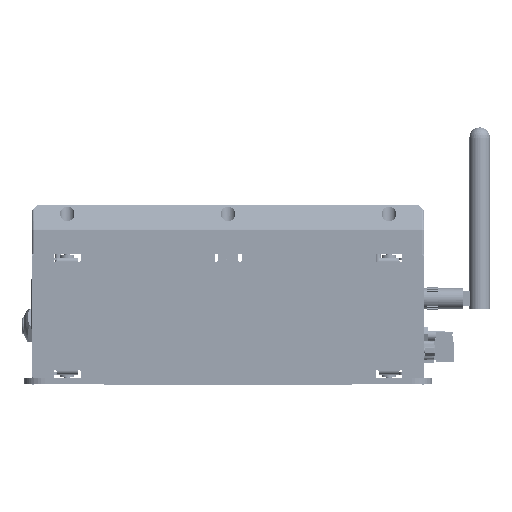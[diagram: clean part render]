
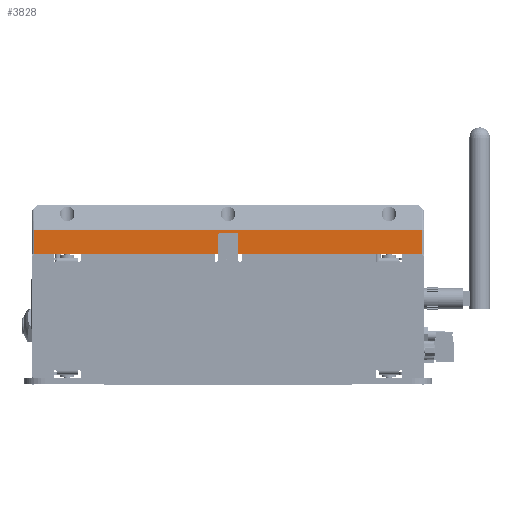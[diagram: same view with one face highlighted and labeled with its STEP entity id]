
A CAD part, left-side view. The second image highlights one B-rep face of the part: STEP entity #3828.
In plain terms, the highlighted planar face has unit normal (-1, 0, 0).
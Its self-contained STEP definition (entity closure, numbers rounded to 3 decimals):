
#3828=ADVANCED_FACE('',(#79423),#79425,.T.);
#79423=FACE_BOUND('',#79424,.T.);
#79424=EDGE_LOOP('',(#143672,#143673,#143674,#143675,#143676,#143677,#143678,#143679,
#143680,#143681));
#79425=PLANE('',#79426);
#79426=AXIS2_PLACEMENT_3D('',#79427,#79428,#79429);
#79427=CARTESIAN_POINT('',(-118.5,95.,86.8));
#79428=DIRECTION('',(-1.,0.,0.));
#79429=DIRECTION('',(0.,0.,-1.));
#143672=ORIENTED_EDGE('',*,*,#197471,.T.);
#143673=ORIENTED_EDGE('',*,*,#199113,.T.);
#143674=ORIENTED_EDGE('',*,*,#199114,.F.);
#143675=ORIENTED_EDGE('',*,*,#199115,.F.);
#143676=ORIENTED_EDGE('',*,*,#199116,.T.);
#143677=ORIENTED_EDGE('',*,*,#199117,.T.);
#143678=ORIENTED_EDGE('',*,*,#197458,.T.);
#143679=ORIENTED_EDGE('',*,*,#197462,.T.);
#143680=ORIENTED_EDGE('',*,*,#197465,.T.);
#143681=ORIENTED_EDGE('',*,*,#197468,.T.);
#197458=EDGE_CURVE('',#220312,#220323,#220324,.T.);
#197462=EDGE_CURVE('',#220323,#220330,#220331,.F.);
#197465=EDGE_CURVE('',#220330,#220335,#220336,.T.);
#197468=EDGE_CURVE('',#220335,#220340,#220341,.F.);
#197471=EDGE_CURVE('',#220340,#220311,#220345,.T.);
#199113=EDGE_CURVE('',#220311,#223305,#223306,.T.);
#199114=EDGE_CURVE('',#223307,#223305,#223308,.T.);
#199115=EDGE_CURVE('',#223309,#223307,#223310,.T.);
#199116=EDGE_CURVE('',#223309,#223311,#223312,.T.);
#199117=EDGE_CURVE('',#223311,#220312,#223313,.T.);
#220311=VERTEX_POINT('',#258786);
#220312=VERTEX_POINT('',#258787);
#220323=VERTEX_POINT('',#258812);
#220324=LINE('',#258813,#258814);
#220330=VERTEX_POINT('',#258827);
#220331=CIRCLE('',#258828,1.);
#220335=VERTEX_POINT('',#258840);
#220336=LINE('',#258841,#258842);
#220340=VERTEX_POINT('',#258851);
#220341=CIRCLE('',#258852,1.);
#220345=LINE('',#258864,#258865);
#223305=VERTEX_POINT('',#266097);
#223306=LINE('',#266098,#266099);
#223307=VERTEX_POINT('',#266101);
#223308=LINE('',#266102,#266103);
#223309=VERTEX_POINT('',#266105);
#223310=LINE('',#266106,#266107);
#223311=VERTEX_POINT('',#266109);
#223312=LINE('',#266110,#266111);
#223313=LINE('',#266113,#266114);
#258786=CARTESIAN_POINT('',(-118.5,-5.,63.));
#258787=CARTESIAN_POINT('',(-118.5,5.,63.));
#258812=CARTESIAN_POINT('',(-118.5,5.,72.));
#258813=CARTESIAN_POINT('',(-118.5,5.,63.));
#258814=VECTOR('',#258815,1.);
#258815=DIRECTION('',(0.,0.,1.));
#258827=CARTESIAN_POINT('',(-118.5,4.,73.));
#258828=AXIS2_PLACEMENT_3D('',#258829,#258830,#258831);
#258829=CARTESIAN_POINT('',(-118.5,4.,72.));
#258830=DIRECTION('',(-1.,0.,0.));
#258831=DIRECTION('',(0.,0.,1.));
#258840=CARTESIAN_POINT('',(-118.5,-4.,73.));
#258841=CARTESIAN_POINT('',(-118.5,4.,73.));
#258842=VECTOR('',#258843,1.);
#258843=DIRECTION('',(0.,-1.,0.));
#258851=CARTESIAN_POINT('',(-118.5,-5.,72.));
#258852=AXIS2_PLACEMENT_3D('',#258853,#258854,#258855);
#258853=CARTESIAN_POINT('',(-118.5,-4.,72.));
#258854=DIRECTION('',(-1.,0.,0.));
#258855=DIRECTION('',(0.,-1.,0.));
#258864=CARTESIAN_POINT('',(-118.5,-5.,72.));
#258865=VECTOR('',#258866,1.);
#258866=DIRECTION('',(0.,0.,-1.));
#266097=CARTESIAN_POINT('',(-118.5,-94.,63.));
#266098=CARTESIAN_POINT('',(-118.5,-5.,63.));
#266099=VECTOR('',#266100,1.);
#266100=DIRECTION('',(0.,-1.,0.));
#266101=CARTESIAN_POINT('',(-118.5,-94.,74.386));
#266102=CARTESIAN_POINT('',(-118.5,-94.,74.386));
#266103=VECTOR('',#266104,1.);
#266104=DIRECTION('',(0.,0.,-1.));
#266105=CARTESIAN_POINT('',(-118.5,94.,74.386));
#266106=CARTESIAN_POINT('',(-118.5,94.,74.386));
#266107=VECTOR('',#266108,1.);
#266108=DIRECTION('',(0.,-1.,0.));
#266109=CARTESIAN_POINT('',(-118.5,94.,63.));
#266110=CARTESIAN_POINT('',(-118.5,94.,74.386));
#266111=VECTOR('',#266112,1.);
#266112=DIRECTION('',(0.,0.,-1.));
#266113=CARTESIAN_POINT('',(-118.5,94.,63.));
#266114=VECTOR('',#266115,1.);
#266115=DIRECTION('',(0.,-1.,0.));
